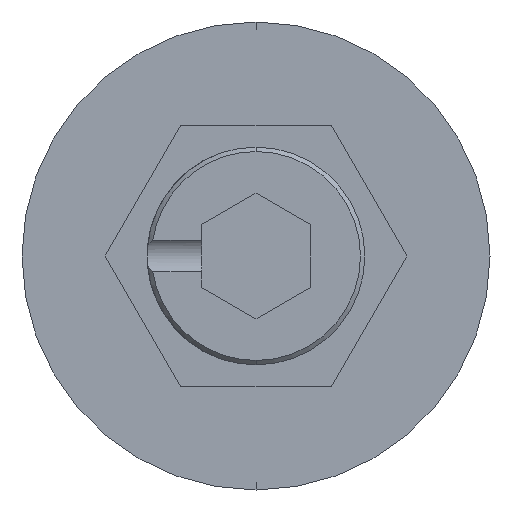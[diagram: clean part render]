
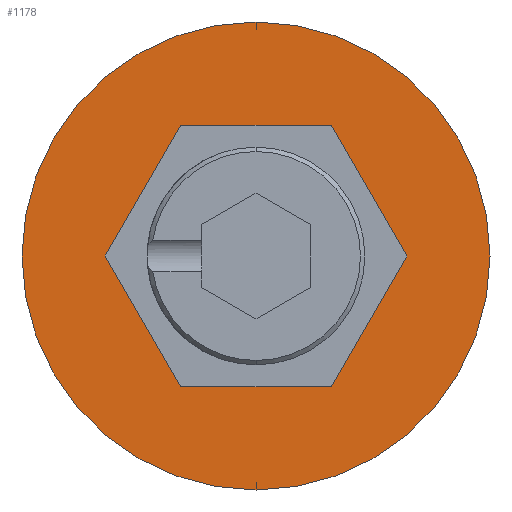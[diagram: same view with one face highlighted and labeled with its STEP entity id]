
A CAD part, front view. The second image highlights one B-rep face of the part: STEP entity #1178.
In plain terms, the highlighted planar face has unit normal (0, -1, 0).
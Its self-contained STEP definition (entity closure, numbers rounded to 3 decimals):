
#20 = EDGE_CURVE ( 'NONE', #1752, #1081, #756, .T. ) ;
#68 = VERTEX_POINT ( 'NONE', #727 ) ;
#95 = EDGE_LOOP ( 'NONE', ( #2001, #1804, #1444, #1391, #1832, #1881 ) ) ;
#118 = ORIENTED_EDGE ( 'NONE', *, *, #480, .T. ) ;
#171 = LINE ( 'NONE', #582, #1978 ) ;
#194 = CARTESIAN_POINT ( 'NONE',  ( 3.464, 0., 6. ) ) ;
#316 = CIRCLE ( 'NONE', #1510, 10.75 ) ;
#338 = LINE ( 'NONE', #349, #868 ) ;
#345 = VECTOR ( 'NONE', #927, 1000. ) ;
#349 = CARTESIAN_POINT ( 'NONE',  ( -3.464, 0., 6. ) ) ;
#360 = DIRECTION ( 'NONE',  ( -0.5, 0., -0.866 ) ) ;
#480 = EDGE_CURVE ( 'NONE', #2137, #68, #1653, .T. ) ;
#494 = VECTOR ( 'NONE', #914, 1000. ) ;
#534 = EDGE_CURVE ( 'NONE', #1081, #2116, #996, .T. ) ;
#582 = CARTESIAN_POINT ( 'NONE',  ( -3.464, 0., -6. ) ) ;
#635 = VECTOR ( 'NONE', #1588, 1000. ) ;
#646 = EDGE_CURVE ( 'NONE', #1110, #1596, #171, .T. ) ;
#680 = CARTESIAN_POINT ( 'NONE',  ( -6.928, 0., 0. ) ) ;
#727 = CARTESIAN_POINT ( 'NONE',  ( 0., 0., -10.75 ) ) ;
#742 = FACE_OUTER_BOUND ( 'NONE', #1937, .T. ) ;
#756 = LINE ( 'NONE', #1461, #345 ) ;
#767 = CARTESIAN_POINT ( 'NONE',  ( -6.928, 0., 0. ) ) ;
#868 = VECTOR ( 'NONE', #360, 1000. ) ;
#914 = DIRECTION ( 'NONE',  ( 0.5, 0., -0.866 ) ) ;
#927 = DIRECTION ( 'NONE',  ( -0.5, 0., 0.866 ) ) ;
#930 = DIRECTION ( 'NONE',  ( 1., 0., 0. ) ) ;
#936 = PLANE ( 'NONE',  #1759 ) ;
#943 = CARTESIAN_POINT ( 'NONE',  ( 0., 0., 0. ) ) ;
#996 = LINE ( 'NONE', #194, #1727 ) ;
#1022 = CARTESIAN_POINT ( 'NONE',  ( 3.464, 0., -6. ) ) ;
#1032 = DIRECTION ( 'NONE',  ( 0., -1., 0. ) ) ;
#1051 = DIRECTION ( 'NONE',  ( 0., -1., 0. ) ) ;
#1077 = DIRECTION ( 'NONE',  ( 0., 0., -1. ) ) ;
#1081 = VERTEX_POINT ( 'NONE', #1435 ) ;
#1093 = CARTESIAN_POINT ( 'NONE',  ( 0., 0., 0. ) ) ;
#1110 = VERTEX_POINT ( 'NONE', #1923 ) ;
#1127 = EDGE_CURVE ( 'NONE', #2116, #2060, #338, .T. ) ;
#1131 = CARTESIAN_POINT ( 'NONE',  ( 3.464, 0., -6. ) ) ;
#1178 = ADVANCED_FACE ( 'NONE', ( #1997, #742 ), #936, .T. ) ;
#1184 = EDGE_CURVE ( 'NONE', #1596, #1752, #1553, .T. ) ;
#1238 = DIRECTION ( 'NONE',  ( 0., -1., 0. ) ) ;
#1278 = DIRECTION ( 'NONE',  ( 0., 0., -1. ) ) ;
#1377 = CARTESIAN_POINT ( 'NONE',  ( -3.464, 0., 6. ) ) ;
#1391 = ORIENTED_EDGE ( 'NONE', *, *, #534, .F. ) ;
#1416 = LINE ( 'NONE', #767, #494 ) ;
#1421 = EDGE_CURVE ( 'NONE', #68, #2137, #316, .T. ) ;
#1432 = AXIS2_PLACEMENT_3D ( 'NONE', #1961, #1051, #1976 ) ;
#1435 = CARTESIAN_POINT ( 'NONE',  ( 3.464, 0., 6. ) ) ;
#1444 = ORIENTED_EDGE ( 'NONE', *, *, #1127, .F. ) ;
#1461 = CARTESIAN_POINT ( 'NONE',  ( 6.928, 0., 0. ) ) ;
#1510 = AXIS2_PLACEMENT_3D ( 'NONE', #1093, #1238, #1278 ) ;
#1553 = LINE ( 'NONE', #1022, #635 ) ;
#1588 = DIRECTION ( 'NONE',  ( 0.5, 0., 0.866 ) ) ;
#1596 = VERTEX_POINT ( 'NONE', #1131 ) ;
#1632 = CARTESIAN_POINT ( 'NONE',  ( 6.928, 0., 0. ) ) ;
#1651 = ORIENTED_EDGE ( 'NONE', *, *, #1421, .T. ) ;
#1653 = CIRCLE ( 'NONE', #1432, 10.75 ) ;
#1702 = CARTESIAN_POINT ( 'NONE',  ( 0., 0., 10.75 ) ) ;
#1727 = VECTOR ( 'NONE', #2083, 1000. ) ;
#1752 = VERTEX_POINT ( 'NONE', #1632 ) ;
#1759 = AXIS2_PLACEMENT_3D ( 'NONE', #943, #1032, #1077 ) ;
#1804 = ORIENTED_EDGE ( 'NONE', *, *, #1901, .F. ) ;
#1832 = ORIENTED_EDGE ( 'NONE', *, *, #20, .F. ) ;
#1881 = ORIENTED_EDGE ( 'NONE', *, *, #1184, .F. ) ;
#1901 = EDGE_CURVE ( 'NONE', #2060, #1110, #1416, .T. ) ;
#1923 = CARTESIAN_POINT ( 'NONE',  ( -3.464, 0., -6. ) ) ;
#1937 = EDGE_LOOP ( 'NONE', ( #1651, #118 ) ) ;
#1961 = CARTESIAN_POINT ( 'NONE',  ( 0., 0., 0. ) ) ;
#1976 = DIRECTION ( 'NONE',  ( 0., 0., -1. ) ) ;
#1978 = VECTOR ( 'NONE', #930, 1000. ) ;
#1997 = FACE_BOUND ( 'NONE', #95, .T. ) ;
#2001 = ORIENTED_EDGE ( 'NONE', *, *, #646, .F. ) ;
#2060 = VERTEX_POINT ( 'NONE', #680 ) ;
#2083 = DIRECTION ( 'NONE',  ( -1., 0., 0. ) ) ;
#2116 = VERTEX_POINT ( 'NONE', #1377 ) ;
#2137 = VERTEX_POINT ( 'NONE', #1702 ) ;
